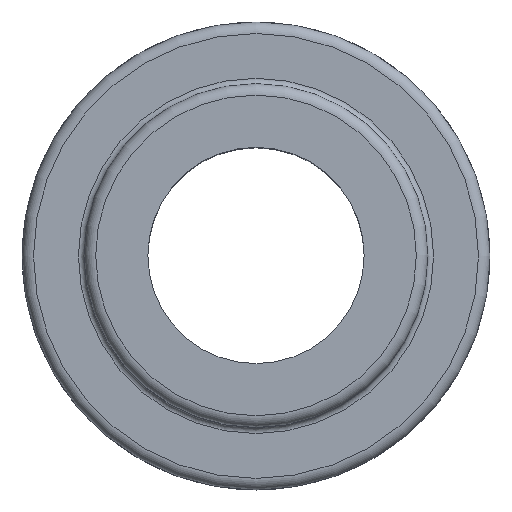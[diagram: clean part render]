
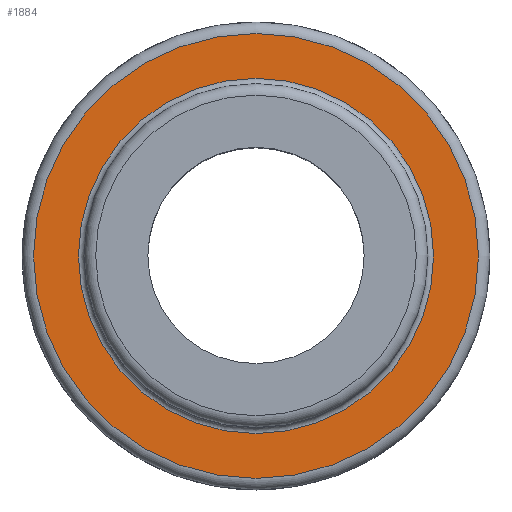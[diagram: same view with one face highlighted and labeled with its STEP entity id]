
A CAD part, top view. The second image highlights one B-rep face of the part: STEP entity #1884.
In plain terms, the highlighted planar face has unit normal (0, 0, 1).
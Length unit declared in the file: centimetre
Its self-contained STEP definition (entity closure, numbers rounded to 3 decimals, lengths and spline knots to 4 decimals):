
#138=PLANE('',#2046);
#543=VERTEX_POINT('',#8364);
#544=VERTEX_POINT('',#8367);
#682=CIRCLE('',#2045,2.9464);
#683=CIRCLE('',#2047,2.352);
#885=EDGE_CURVE('',#543,#543,#682,.T.);
#886=EDGE_CURVE('',#544,#544,#683,.T.);
#1345=ORIENTED_EDGE('',*,*,#886,.F.);
#1346=ORIENTED_EDGE('',*,*,#885,.F.);
#1612=EDGE_LOOP('',(#1345));
#1613=EDGE_LOOP('',(#1346));
#1751=FACE_BOUND('',#1612,.T.);
#1752=FACE_BOUND('',#1613,.T.);
#1884=ADVANCED_FACE('',(#1751,#1752),#138,.F.);
#2045=AXIS2_PLACEMENT_3D('',#8363,#2371,#2372);
#2046=AXIS2_PLACEMENT_3D('',#8365,#2373,$);
#2047=AXIS2_PLACEMENT_3D('',#8366,#2374,#2375);
#2371=DIRECTION('',(0.,0.,-1.));
#2372=DIRECTION('',(-2.946,0.,0.));
#2373=DIRECTION('',(0.,0.,-1.));
#2374=DIRECTION('',(0.,0.,1.));
#2375=DIRECTION('',(0.,2.352,0.));
#8363=CARTESIAN_POINT('',(0.,0.,-3.937));
#8364=CARTESIAN_POINT('',(2.9464,0.,-3.937));
#8365=CARTESIAN_POINT('',(0.,0.,-3.937));
#8366=CARTESIAN_POINT('',(0.,0.,-3.937));
#8367=CARTESIAN_POINT('',(0.,-2.352,-3.937));
